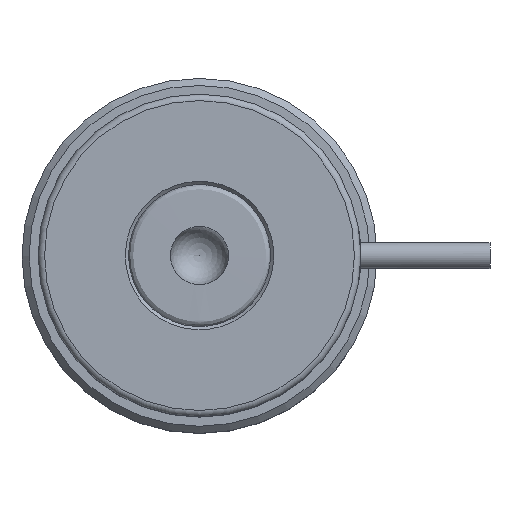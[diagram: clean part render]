
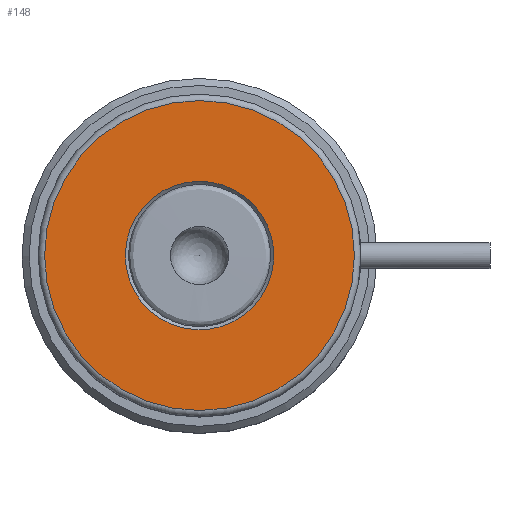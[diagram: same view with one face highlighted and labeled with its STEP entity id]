
A CAD part, top view. The second image highlights one B-rep face of the part: STEP entity #148.
In plain terms, the highlighted planar face has unit normal (0, 0, 1).
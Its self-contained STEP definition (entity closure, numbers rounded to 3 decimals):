
#148=ADVANCED_FACE('',(#372,#373),#374,.F.);
#372=FACE_BOUND('',#722,.T.);
#373=FACE_OUTER_BOUND('',#723,.T.);
#374=PLANE('',#724);
#722=EDGE_LOOP('',(#1103));
#723=EDGE_LOOP('',(#1104));
#724=AXIS2_PLACEMENT_3D('',#1105,#1106,#1107);
#1103=ORIENTED_EDGE('',*,*,#1677,.T.);
#1104=ORIENTED_EDGE('',*,*,#1675,.F.);
#1105=CARTESIAN_POINT('',(-24.0,0.0,30.));
#1106=DIRECTION('',(-0.0,0.,-1.0));
#1107=DIRECTION('',(0.0,1.0,0.));
#1675=EDGE_CURVE('',#1873,#1873,#1874,.T.);
#1677=EDGE_CURVE('',#1876,#1876,#1877,.T.);
#1873=VERTEX_POINT('',#2282);
#1874=CIRCLE('',#2283,24.0);
#1876=VERTEX_POINT('',#2285);
#1877=CIRCLE('',#2286,11.5);
#2282=CARTESIAN_POINT('',(0.0,24.0,30.));
#2283=AXIS2_PLACEMENT_3D('',#2590,#2591,#2592);
#2285=CARTESIAN_POINT('',(0.0,11.5,30.));
#2286=AXIS2_PLACEMENT_3D('',#2593,#2594,#2595);
#2590=CARTESIAN_POINT('',(0.0,0.0,30.));
#2591=DIRECTION('',(-0.0,0.,-1.0));
#2592=DIRECTION('',(0.0,1.0,0.));
#2593=CARTESIAN_POINT('',(0.0,0.0,30.));
#2594=DIRECTION('',(-0.0,0.,-1.0));
#2595=DIRECTION('',(0.0,1.0,0.));
